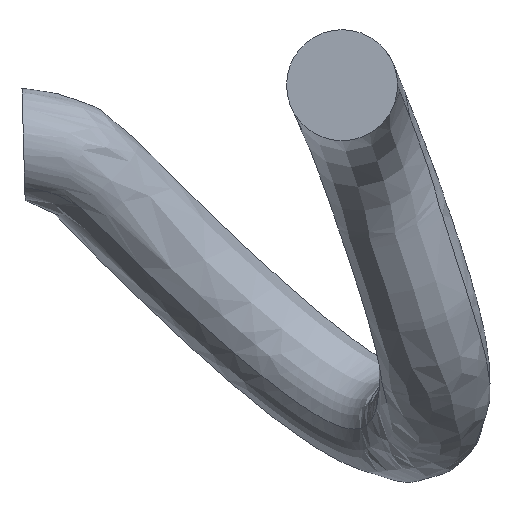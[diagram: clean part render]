
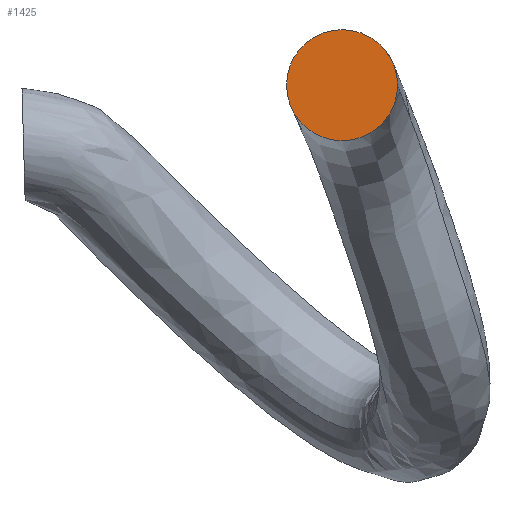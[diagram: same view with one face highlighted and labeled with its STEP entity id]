
A CAD part, front view. The second image highlights one B-rep face of the part: STEP entity #1425.
In plain terms, the highlighted planar face has unit normal (0, -1, 0).
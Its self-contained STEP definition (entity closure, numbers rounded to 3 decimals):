
#77 = AXIS2_PLACEMENT_3D ( 'NONE', #1031, #1781, #1199 ) ;
#126 = FACE_OUTER_BOUND ( 'NONE', #1312, .T. ) ;
#137 = PLANE ( 'NONE',  #77 ) ;
#414 = AXIS2_PLACEMENT_3D ( 'NONE', #1231, #681, #1241 ) ;
#423 = ORIENTED_EDGE ( 'NONE', *, *, #2172, .F. ) ;
#525 = DIRECTION ( 'NONE',  ( 0., 0., -1. ) ) ;
#565 = ORIENTED_EDGE ( 'NONE', *, *, #943, .F. ) ;
#681 = DIRECTION ( 'NONE',  ( 0., 1., 0. ) ) ;
#865 = DIRECTION ( 'NONE',  ( 0., 1., 0. ) ) ;
#943 = EDGE_CURVE ( 'NONE', #1694, #1873, #2086, .T. ) ;
#1031 = CARTESIAN_POINT ( 'NONE',  ( 1987., -76.09, 2193.09 ) ) ;
#1199 = DIRECTION ( 'NONE',  ( 0., 0., -1. ) ) ;
#1231 = CARTESIAN_POINT ( 'NONE',  ( 1987., -76.09, 2193.09 ) ) ;
#1241 = DIRECTION ( 'NONE',  ( 0., 0., -1. ) ) ;
#1312 = EDGE_LOOP ( 'NONE', ( #423, #565 ) ) ;
#1375 = CARTESIAN_POINT ( 'NONE',  ( 1987., -76.09, 2153.09 ) ) ;
#1425 = ADVANCED_FACE ( 'NONE', ( #126 ), #137, .T. ) ;
#1694 = VERTEX_POINT ( 'NONE', #1375 ) ;
#1781 = DIRECTION ( 'NONE',  ( 0., -1., 0. ) ) ;
#1873 = VERTEX_POINT ( 'NONE', #2360 ) ;
#1939 = CIRCLE ( 'NONE', #2282, 40. ) ;
#2086 = CIRCLE ( 'NONE', #414, 40. ) ;
#2172 = EDGE_CURVE ( 'NONE', #1873, #1694, #1939, .T. ) ;
#2187 = CARTESIAN_POINT ( 'NONE',  ( 1987., -76.09, 2193.09 ) ) ;
#2282 = AXIS2_PLACEMENT_3D ( 'NONE', #2187, #865, #525 ) ;
#2360 = CARTESIAN_POINT ( 'NONE',  ( 1987., -76.09, 2233.09 ) ) ;
